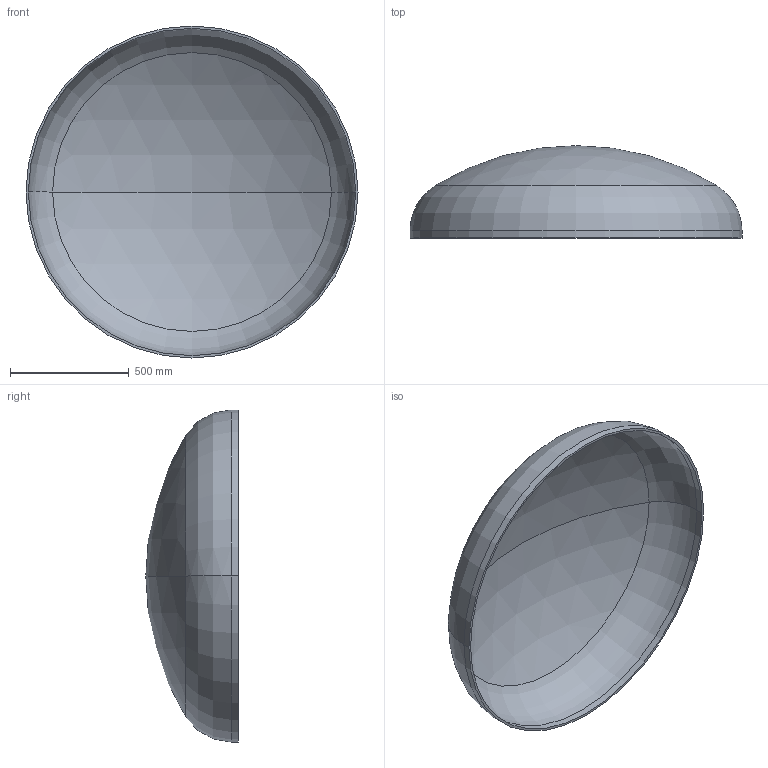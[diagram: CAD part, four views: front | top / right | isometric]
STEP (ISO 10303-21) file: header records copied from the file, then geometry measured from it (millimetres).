
FILE_DESCRIPTION (( 'STEP AP203' ), '1' );
FILE_NAME ('DIN 28013 Korbbogenform_-_Boden DIN 28013 - 1400 x 30 - I - s=10.step', '2016-07-01T10:07:24', ( '' ), ( '' ), 'SwSTEP 2.0', 'SolidWorks 2013', '' );
FILE_SCHEMA (( 'CONFIG_CONTROL_DESIGN' ));
Length unit declared in the file: millimetre
Products named in the file (1): DIN 28013 Korbbogenform_-_Boden DIN 28013 - 1400 x 30 - I - s=10
Bounding box: 1400 x 389.68 x 1400 mm (x, y, z)
Volume: 22418593.8 mm3; surface area: 4527594.6 mm2
Topology: 1 solids, 1 shells, 13 faces, 24 edges, 14 vertices
Faces by surface type: torus 4, cylinder 4, sphere 4, plane 1
Entity records: 407 total; most frequent: DIRECTION 72, CARTESIAN_POINT 52, ORIENTED_EDGE 48, AXIS2_PLACEMENT_3D 34, EDGE_CURVE 24, CIRCLE 20, EDGE_LOOP 14, VERTEX_POINT 14
